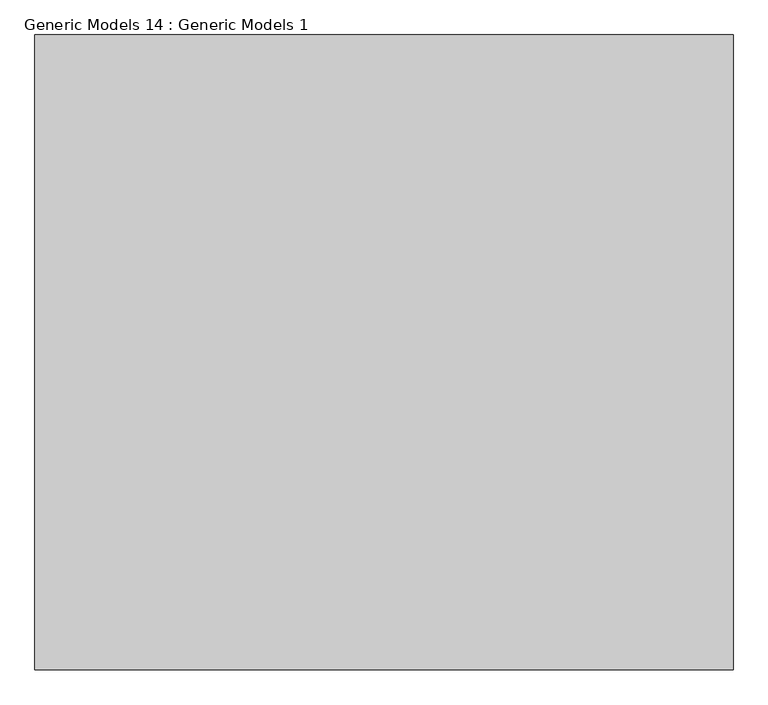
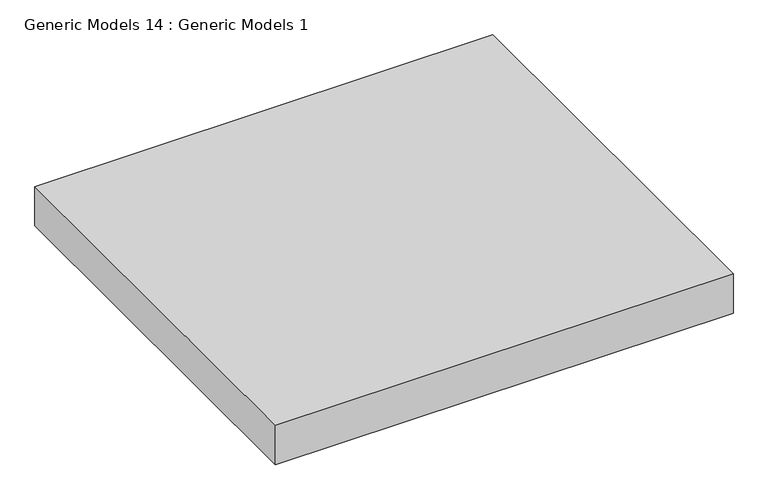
"""IFC4 building model written with IfcOpenShell, lengths in millimetres: proxy geometry, Generic Models 14 : Generic Models 1."""

from ifc_helpers import new_model, si_unit, origin, origin_with_axes, place, context, project, spatial, polyline, outline, extrude, source, transform, mapped, element, save


def generic_models_14_generic_models_1_f76d4024(model_context):
    return source(origin(), model_context, "Body", "SweptSolid", [
        extrude(outline(polyline([(2637.1851171, -7486.5772826), (2637.1851171, -6486.5772826), (3737.1851171, -6486.5772826), (3737.1851171, -7486.5772826), (2637.1851171, -7486.5772826)])), origin_with_axes(), (0.0, 0.0, 1.0), 100.0),
    ])


if __name__ == "__main__":
    model = new_model("IFC4")
    model_context = context("Model", 3, world=origin())
    ifc_project = project(units=[si_unit("LENGTHUNIT", "METRE", prefix="MILLI")], contexts=[model_context])
    site = spatial("IfcSite", under=ifc_project)
    building = spatial("IfcBuilding", under=site)
    placement = place(None, origin())
    generic_models_14_generic_models_1_shape = generic_models_14_generic_models_1_f76d4024(model_context)
    element("IfcBuildingElementProxy", 1, Name="Generic Models 14 : Generic Models 1", ObjectType="Generic Models 14 : Generic Models 1", at=placement, inside=building, context=model_context, shape_type="MappedRepresentation", body=[
        mapped(generic_models_14_generic_models_1_shape, transform((0.0, 0.0, 0.0), x_axis=(1.0, 0.0, 0.0), y_axis=(0.0, 1.0, 0.0), z_axis=(0.0, 0.0, 1.0))),
    ])
    save(model, "model.ifc")
